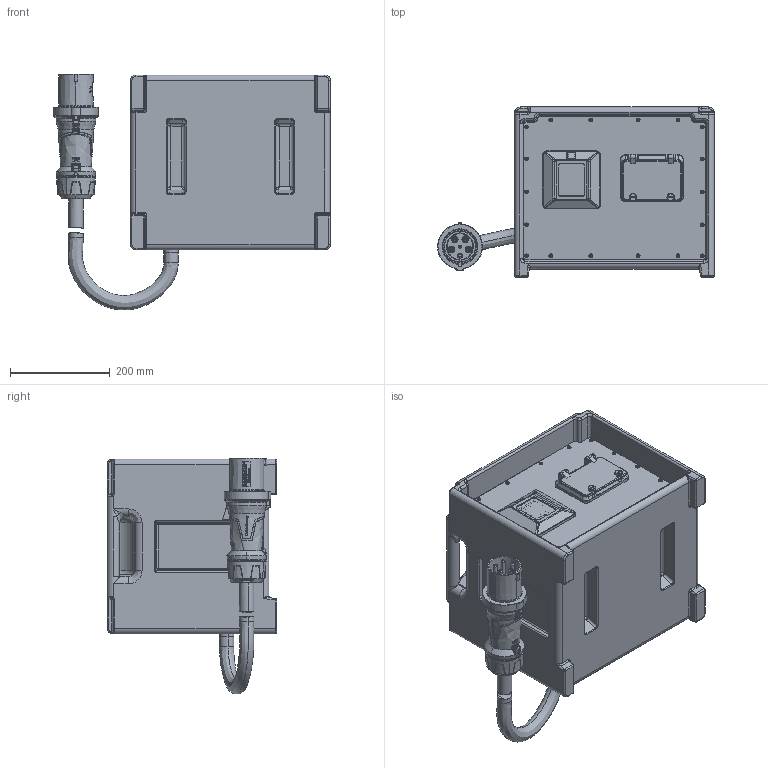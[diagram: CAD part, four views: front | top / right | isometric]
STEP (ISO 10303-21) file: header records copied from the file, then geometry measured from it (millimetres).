
FILE_DESCRIPTION((''),'2;1');
FILE_NAME('2514003-8_ASM_1_ASM','2026-03-20T11:57:14',('kremer'),('MENNEKES'),'CREO PARAMETRIC BY PTC INC, 2024153','CREO PARAMETRIC BY PTC INC, 2024153','');
FILE_SCHEMA(('AUTOMOTIVE_DESIGN { 1 0 10303 214 1 1 1 1 }'));
Products named in the file (12): SVE_3_MEB_SCHWARZ_AF0_1; EINBAURAHMEN_IOT_1; ZAEHLER_3TE_WAAGERECHT_1; REG_1TE_BLIND_1; FG9_6TE_GRAU_1; KABELVERSCHR_M40_IP67_GRAU_1; FL107X100_63_5_44_ROT_1; KABEL_EB_SCHWARZ_RECHTS_1_1; KABEL_EB_SCHWARZ_RECHTS_1_2; KABEL_EB_SCHWARZ_RECHTS_1_ASM; 13112_1; 2514003-8_ASM_1_ASM
Assembly tree (11 placements, depth 3):
  2514003-8_ASM_1_ASM
    SVE_3_MEB_SCHWARZ_AF0_1
    EINBAURAHMEN_IOT_1
    ZAEHLER_3TE_WAAGERECHT_1
    REG_1TE_BLIND_1
    FG9_6TE_GRAU_1
    KABELVERSCHR_M40_IP67_GRAU_1
    FL107X100_63_5_44_ROT_1
    KABEL_EB_SCHWARZ_RECHTS_1_ASM
      KABEL_EB_SCHWARZ_RECHTS_1_1
      KABEL_EB_SCHWARZ_RECHTS_1_2
    13112_1
Bounding box: 553.77 x 340 x 472.32 mm (x, y, z)
Volume: 29931459 mm3; surface area: 1364366.5 mm2
Topology: 9 solids, 9 shells, 5063 faces, 13776 edges, 8918 vertices
Faces by surface type: plane 1696, cylinder 1114, extrusion 929, bspline 544, torus 429, cone 264, sphere 85, revolution 2
Entity records: 279271 total; most frequent: CARTESIAN_POINT 74378, ORIENTED_EDGE 27428, DIRECTION 21546, PRESENTATION_STYLE_ASSIGNMENT 18773, STYLED_ITEM 14614, CURVE_STYLE 14605, EDGE_CURVE 13714, VERTEX_POINT 8918
